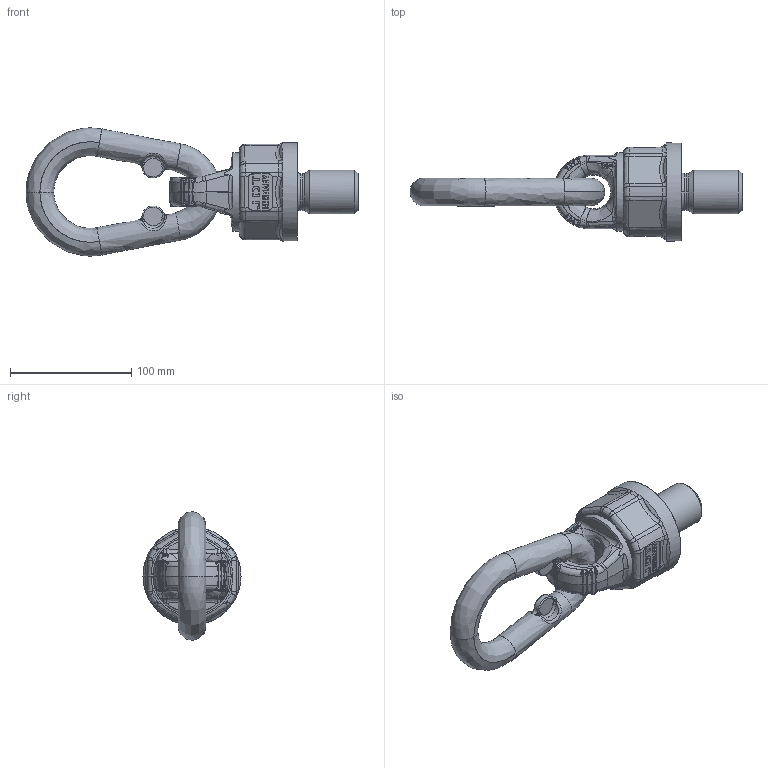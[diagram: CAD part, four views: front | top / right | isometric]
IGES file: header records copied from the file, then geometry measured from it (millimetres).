
Global section: file name: C:\IDEAS\IDEAS-DATEN\Temp\TP10_M36x50_senkrecht.igs; preprocessor: I-DEAS 3D IGES Translator 11; date: 20080319.154823; units: millimetre
Bounding box: 274.34 x 81 x 105.98 mm (x, y, z)
Surface area: 62451.1 mm2 (no closed solid volume)
Topology: 0 solids, 0 shells, 660 faces, 3458 edges, 3402 vertices
Faces by surface type: bspline 660
